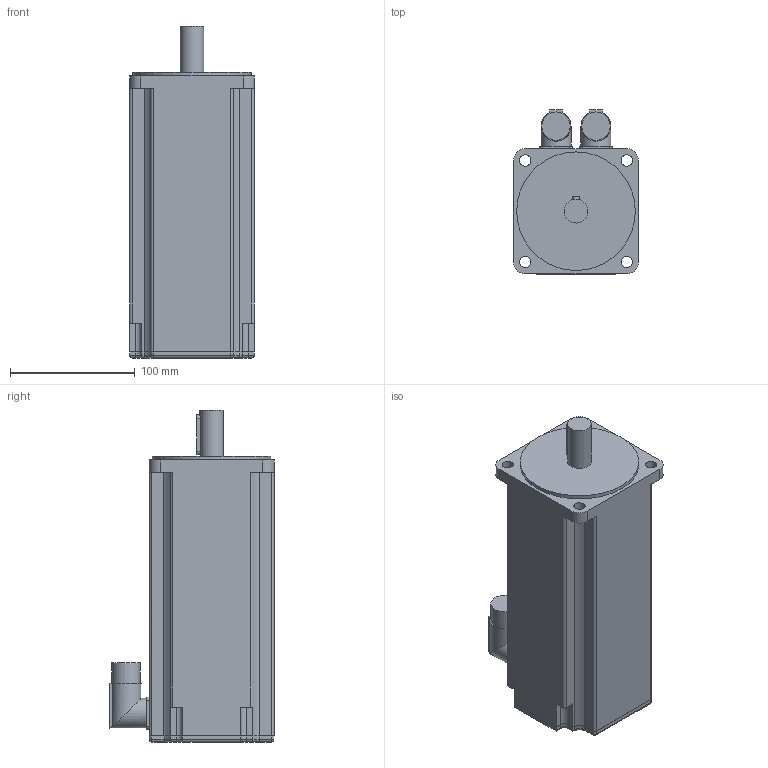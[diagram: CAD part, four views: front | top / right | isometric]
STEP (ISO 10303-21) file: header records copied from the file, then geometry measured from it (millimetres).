
FILE_DESCRIPTION(/* description */ (''),/* implementation_level */ '2;1');
FILE_NAME(/* name */ '\\Lafnas01\disegni\Archivi Lafert\3D\CAD 3D\MODELLI\Assiemi clienti\Serad\Modelli 3D Serad\B63Q\Resolver\Res With Brake\B6308Qxx6B052033.ipt.stp',/* time_stamp */ '2015-09-07T10:51:19+02:00',/* author */ ('Pastrello Ylenia'),/* organization */ (''),/* preprocessor_version */ 'ST-DEVELOPER v15.6',/* originating_system */ 'Autodesk Inventor 2015',/* authorisation */ '');
FILE_SCHEMA (('AUTOMOTIVE_DESIGN { 1 0 10303 214 3 1 1 }'));
Length unit declared in the file: millimetre
Products named in the file (1): B6308Qxx6B052033
Bounding box: 100 x 131.5 x 266 mm (x, y, z)
Volume: 2091858.4 mm3; surface area: 118719.5 mm2
Topology: 1 solids, 1 shells, 162 faces, 420 edges, 270 vertices
Faces by surface type: plane 76, cylinder 74, torus 8, sphere 4
Full cylindrical faces by diameter (mm): 9 x4, 19 x1, 22.7 x2, 24 x2, 95 x1
Entity records: 5018 total; most frequent: CARTESIAN_POINT 973, DIRECTION 864, ORIENTED_EDGE 812, EDGE_CURVE 406, AXIS2_PLACEMENT_3D 305, VERTEX_POINT 266, LINE 254, VECTOR 254
